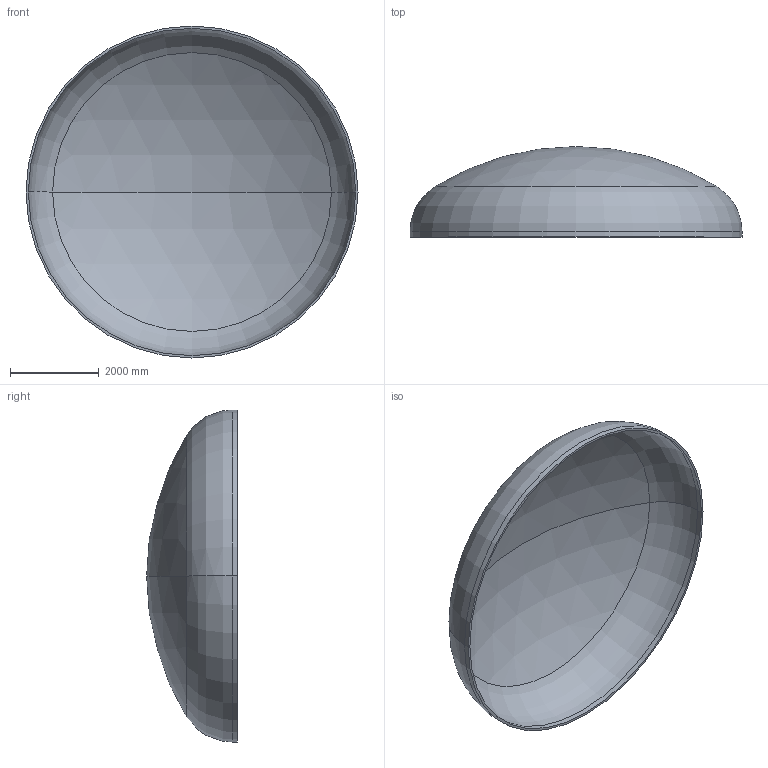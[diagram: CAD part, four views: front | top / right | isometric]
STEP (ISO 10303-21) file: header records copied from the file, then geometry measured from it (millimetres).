
FILE_DESCRIPTION (( 'STEP AP203' ), '1' );
FILE_NAME ('DIN 28013 Korbbogenform_-_Boden DIN 28013 - 7500 x 120 - I - s=52.step', '2016-07-04T10:54:45', ( '' ), ( '' ), 'SwSTEP 2.0', 'SolidWorks 2013', '' );
FILE_SCHEMA (( 'CONFIG_CONTROL_DESIGN' ));
Length unit declared in the file: millimetre
Products named in the file (1): DIN 28013 Korbbogenform_-_Boden DIN 28013 - 7500 x 120 - I - s=52
Bounding box: 7500 x 2048.02 x 7500 mm (x, y, z)
Volume: 3298727911.9 mm3; surface area: 128096490.3 mm2
Topology: 1 solids, 1 shells, 13 faces, 24 edges, 14 vertices
Faces by surface type: torus 4, cylinder 4, sphere 4, plane 1
Entity records: 407 total; most frequent: DIRECTION 72, CARTESIAN_POINT 52, ORIENTED_EDGE 48, AXIS2_PLACEMENT_3D 34, EDGE_CURVE 24, CIRCLE 20, VERTEX_POINT 14, EDGE_LOOP 14
